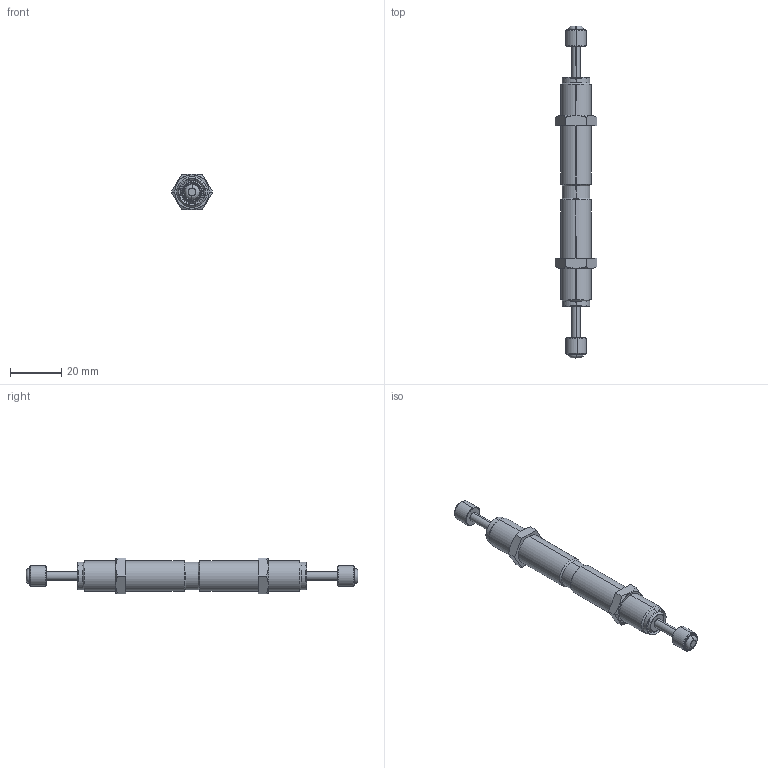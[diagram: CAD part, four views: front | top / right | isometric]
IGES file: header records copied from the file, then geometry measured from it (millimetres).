
Start section: SolidWorks IGES file using analytic representation for surfaces
Bounding box: 16.17 x 130 x 14 mm (x, y, z)
Surface area: 5577.8 mm2 (no closed solid volume)
Topology: 0 solids, 0 shells, 86 faces, 1100 edges, 1100 vertices
Faces by surface type: revolution 58, bspline 28
